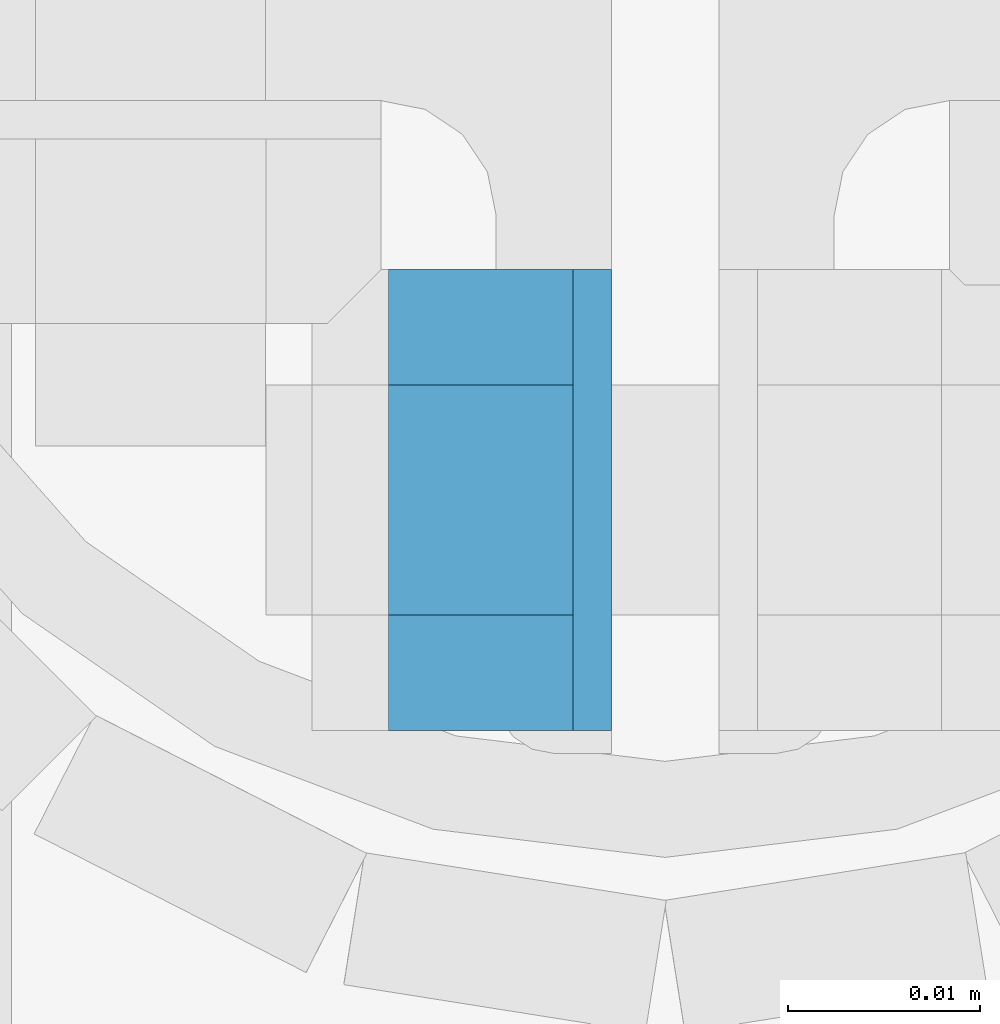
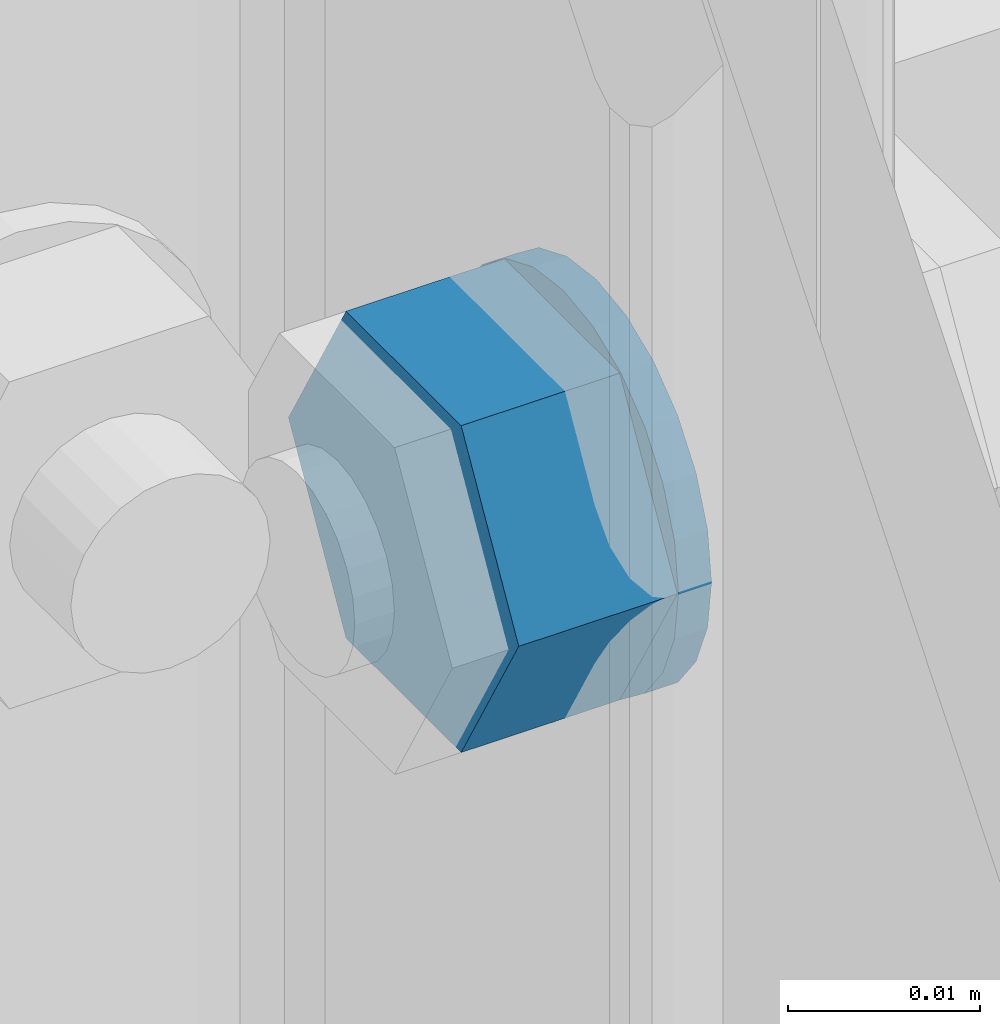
# One storey, part 62 of 84: 2 mechanical fasteners.
"""IFC4 building model written with IfcOpenShell, lengths in metres."""

from ifc_helpers import new_model, si_unit, frame, origin_with_axes, place, context, project, spatial, polyline, outline, extrude, type_object, element, save


model = new_model("IFC4")

# Units and contexts
model_context = context("Model", 3, precision=1e-05, world=origin_with_axes())
ifc_project = project(units=[si_unit("LENGTHUNIT", "METRE"), si_unit("AREAUNIT", "SQUARE_METRE"), si_unit("VOLUMEUNIT", "CUBIC_METRE"), si_unit("MASSUNIT", "GRAM", prefix="KILO"), si_unit("TIMEUNIT", "SECOND"), si_unit("PLANEANGLEUNIT", "RADIAN"), si_unit("SOLIDANGLEUNIT", "STERADIAN"), si_unit("THERMODYNAMICTEMPERATUREUNIT", "DEGREE_CELSIUS")], contexts=[model_context])

# Site, building, storey
placement_1 = place(None, origin_with_axes())
site = spatial("IfcSite", under=ifc_project, at=placement_1, Name="Italia", CompositionType="ELEMENT")
building = spatial("IfcBuilding", under=site, at=placement_1, Name="Tettoia", CompositionType="ELEMENT")
storey_placement = place(None, frame((0.0, 0.0, 4.199999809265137), z_axis=(0.0, 0.0, 1.0), x_axis=(1.0, 0.0, 0.0)))
storey = spatial("IfcBuildingStorey", under=building, at=storey_placement, Name="Storey 1", CompositionType="ELEMENT", Elevation=4.199999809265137)

# Mechanical fasteners
mechanical_fastener_type_1 = type_object("IfcMechanicalFastenerType", Name="Collegamento 0109_0110", PredefinedType="BOLT")
placement_2 = place(placement_1, origin_with_axes())
mechanical_fastener_1_placement = place(placement_2, origin_with_axes())
element("IfcMechanicalFastener", 1, at=mechanical_fastener_1_placement, inside=storey, type_object=mechanical_fastener_type_1, Name="Collegamento 0109_0110", NominalDiameter=0.0119997, context=model_context, shape_type="SweptSolid", body=[
    extrude(outline(polyline([(0.0, 0.0), (-0.0120001, 0.0), (-0.0179996, 0.0103922), (-0.0120001, 0.0207844), (0.0, 0.0207844), (0.00600052, 0.0103922), (0.0, 0.0)])), frame((8.2852, 9.9344, 4.32761), z_axis=(-1.0, 0.0, 0.0), x_axis=(0.0, -1.0, 0.0)), (0.0, 0.0, 1.0), 0.00960064),
])
mechanical_fastener_type_2 = type_object("IfcMechanicalFastenerType", Name="Collegamento 0109_0110", PredefinedType="BOLT")
mechanical_fastener_2_placement = place(placement_2, origin_with_axes())
element("IfcMechanicalFastener", 2, at=mechanical_fastener_2_placement, inside=storey, type_object=mechanical_fastener_type_2, Name="Collegamento 0109_0110", NominalDiameter=0.024, context=model_context, shape_type="SweptSolid", body=[
    extrude(outline(polyline([(0.0, 0.0), (-0.000409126, -0.00310564), (-0.00160789, -0.00600004), (-0.00351524, -0.00848532), (-0.00600052, -0.0103922), (-0.00889397, -0.011591), (-0.0120001, -0.0120001), (-0.0151062, -0.011591), (-0.0179996, -0.0103922), (-0.0204849, -0.00848532), (-0.0223923, -0.00600004), (-0.023591, -0.00310564), (-0.0240002, 0.0), (-0.023591, 0.00310564), (-0.0223923, 0.00600004), (-0.0204849, 0.00848532), (-0.0179996, 0.0103922), (-0.0151062, 0.011591), (-0.0120001, 0.0120001), (-0.00889397, 0.011591), (-0.00600052, 0.0103922), (-0.00351524, 0.00848532), (-0.00160789, 0.00600004), (-0.000409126, 0.00310564), (0.0, 0.0)])), frame((8.2872, 9.9284, 4.338), z_axis=(-1.0, 0.0, 0.0), x_axis=(0.0, -1.0, 0.0)), (0.0, 0.0, 1.0), 0.00199986),
])

save(model, "model.ifc")
